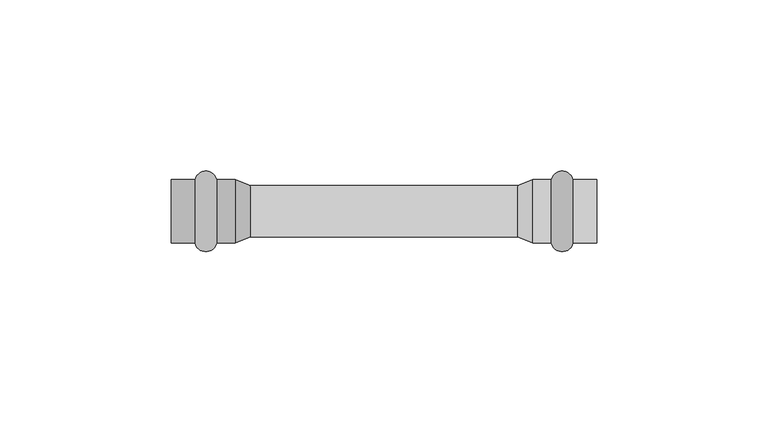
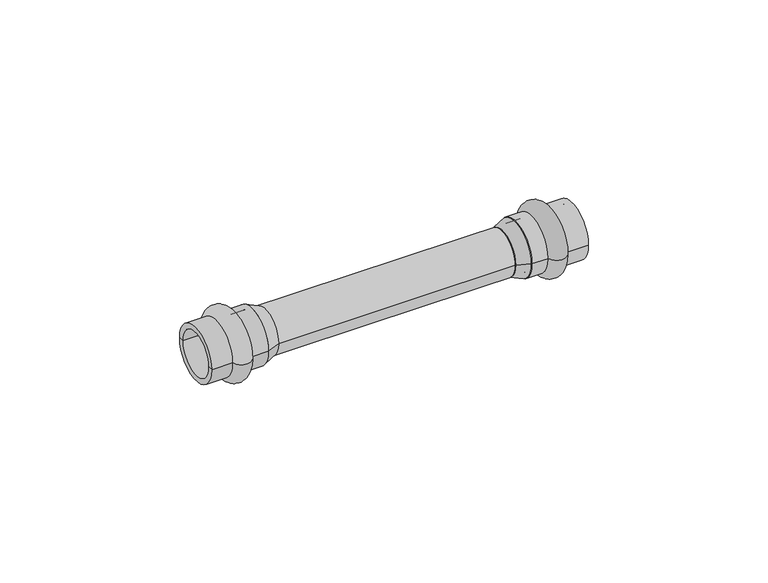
"""IFC4 building model written with IfcOpenShell, lengths in millimetres: pipe fitting geometry, VALTEC_VTi.903.I_Соединитель прямой нержавеющая сталь : VTi.903.I."""

from ifc_helpers import new_model, si_unit, point, frame, origin, origin_2d, place, context, project, spatial, polyline, circle_curve, ellipse_curve, trimmed, segment, composite_curve, outline, extrude, source, transform, mapped, element, save
from ifc_brep_helpers import plane_surface, cylinder_surface, revolved_surface, advanced_brep


def pipe_fitting_8fc397d4(model_context):
    return source(origin(), model_context, "Body", "SolidModel", [
        advanced_brep(
        [(117.1122777, 9.25, 0.0), (117.1122777, -9.25, 0.0), (110.7877223, -9.25, 0.0), (110.7877223, 9.25, 0.0), (124.0, 9.25, 0.0), (124.0, -9.25, 0.0), (124.0, 7.5, 0.0), (124.0, -7.5, 0.0), (105.4, 7.5, 0.0), (105.4, -7.5, 0.0), (105.4, 9.25, 0.0), (105.4, -9.25, 0.0)],
        [
            (0, 1, circle_curve(frame((117.1122777, 0.0, 0.0), z_axis=(-1.0, 0.0, 0.0), x_axis=(0.0, -1.0, 0.0)), 9.25)),
            (1, 2, circle_curve(frame((113.95, -8.5, 0.0), z_axis=(0.0, 0.0, -1.0), x_axis=(-1.0, 0.0, 0.0)), 3.25)),
            (2, 3, circle_curve(frame((110.7877223, 0.0, 0.0), z_axis=(1.0, 0.0, 0.0), x_axis=(0.0, -1.0, 0.0)), 9.25)),
            (3, 0, circle_curve(frame((113.95, 8.5, 0.0), z_axis=(0.0, 0.0, -1.0), x_axis=(-1.0, 0.0, 0.0)), 3.25)),
            (1, 0, circle_curve(frame((117.1122777, 0.0, 0.0), z_axis=(-1.0, 0.0, 0.0), x_axis=(0.0, -1.0, 0.0)), 9.25)),
            (3, 2, circle_curve(frame((110.7877223, 0.0, 0.0), z_axis=(1.0, 0.0, 0.0), x_axis=(0.0, -1.0, 0.0)), 9.25)),
            (4, 5, circle_curve(frame((124.0, 0.0, 0.0), z_axis=(-1.0, 0.0, 0.0), x_axis=(0.0, -1.0, 0.0)), 9.25)),
            (5, 1),
            (0, 4),
            (5, 4, circle_curve(frame((124.0, 0.0, 0.0), z_axis=(-1.0, 0.0, 0.0), x_axis=(0.0, -1.0, 0.0)), 9.25)),
            (6, 7, circle_curve(frame((124.0, 0.0, 0.0), z_axis=(-1.0, 0.0, 0.0), x_axis=(0.0, -1.0, 0.0)), 7.5)),
            (7, 5),
            (4, 6),
            (7, 6, circle_curve(frame((124.0, 0.0, 0.0), z_axis=(-1.0, 0.0, 0.0), x_axis=(0.0, -1.0, 0.0)), 7.5)),
            (8, 9, circle_curve(frame((105.4, 0.0, 0.0), z_axis=(-1.0, 0.0, 0.0), x_axis=(0.0, -1.0, 0.0)), 7.5)),
            (9, 7),
            (6, 8),
            (9, 8, circle_curve(frame((105.4, 0.0, 0.0), z_axis=(-1.0, 0.0, 0.0), x_axis=(0.0, -1.0, 0.0)), 7.5)),
            (10, 11, circle_curve(frame((105.4, 0.0, 0.0), z_axis=(-1.0, 0.0, 0.0), x_axis=(0.0, -1.0, 0.0)), 9.25)),
            (11, 9),
            (8, 10),
            (11, 10, circle_curve(frame((105.4, 0.0, 0.0), z_axis=(-1.0, 0.0, 0.0), x_axis=(0.0, -1.0, 0.0)), 9.25)),
            (2, 11),
            (10, 3),
        ],
        [
            revolved_surface(trimmed(ellipse_curve(frame((113.95, -8.5, 0.0), z_axis=(0.0, 0.0, 1.0), x_axis=(-1.0, 0.0, 0.0)), 3.25, 3.25), [point((110.7877223, -9.25, 0.0))], [point((117.1122777, -9.25, 0.0))], True, "CARTESIAN"), (127.5364426, 0.0, 0.0), (1.0, 0.0, 0.0)),
            cylinder_surface(frame((127.5364426, 0.0, 0.0), z_axis=(1.0, 0.0, 0.0), x_axis=(0.0, -1.0, 0.0)), 9.25),
            plane_surface(frame((124.0, 0.0, 0.0), z_axis=(1.0, 0.0, 0.0), x_axis=(0.0, -1.0, 0.0))),
            revolved_surface(polyline([(124.0, -7.5, 0.0), (105.4, -7.5, 0.0)]), (127.5364426, 0.0, 0.0), (1.0, 0.0, 0.0)),
            plane_surface(frame((105.4, 0.0, 0.0), z_axis=(-1.0, 0.0, 0.0), x_axis=(0.0, -1.0, 0.0))),
        ],
        [
            (0, [[1, 2, 3, 4]]),
            (0, [[5, -4, 6, -2]]),
            (1, [[7, 8, -1, 9]]),
            (1, [[10, -9, -5, -8]]),
            (2, [[11, 12, -7, 13]]),
            (2, [[14, -13, -10, -12]]),
            (3, [[15, 16, -11, 17]]),
            (3, [[18, -17, -14, -16]]),
            (4, [[19, 20, -15, 21]]),
            (4, [[22, -21, -18, -20]]),
            (1, [[-3, 23, -19, 24]]),
            (1, [[-6, -24, -22, -23]]),
        ],
    ),
        advanced_brep(
        [(6.8877223, -9.25, 0.0), (6.8877223, 9.25, 0.0), (13.2122777, 9.25, 0.0), (13.2122777, -9.25, 0.0), (0.0, -9.25, 0.0), (0.0, 9.25, 0.0), (0.0, -7.5, 0.0), (0.0, 7.5, 0.0), (18.6, -7.5, 0.0), (18.6, 7.5, 0.0), (18.6, -9.25, 0.0), (18.6, 9.25, 0.0)],
        [
            (0, 1, circle_curve(frame((6.8877223, 0.0, 0.0), z_axis=(1.0, 0.0, 0.0), x_axis=(0.0, 1.0, 0.0)), 9.25)),
            (1, 2, circle_curve(frame((10.05, 8.5, 0.0), z_axis=(0.0, 0.0, -1.0), x_axis=(1.0, 0.0, 0.0)), 3.25)),
            (2, 3, circle_curve(frame((13.2122777, 0.0, 0.0), z_axis=(-1.0, 0.0, 0.0), x_axis=(0.0, 1.0, 0.0)), 9.25)),
            (3, 0, circle_curve(frame((10.05, -8.5, 0.0), z_axis=(0.0, 0.0, -1.0), x_axis=(1.0, 0.0, 0.0)), 3.25)),
            (1, 0, circle_curve(frame((6.8877223, 0.0, 0.0), z_axis=(1.0, 0.0, 0.0), x_axis=(0.0, 1.0, 0.0)), 9.25)),
            (3, 2, circle_curve(frame((13.2122777, 0.0, 0.0), z_axis=(-1.0, 0.0, 0.0), x_axis=(0.0, 1.0, 0.0)), 9.25)),
            (4, 5, circle_curve(frame((0.0, 0.0, 0.0), z_axis=(1.0, 0.0, 0.0), x_axis=(0.0, 1.0, 0.0)), 9.25)),
            (5, 1),
            (0, 4),
            (5, 4, circle_curve(frame((0.0, 0.0, 0.0), z_axis=(1.0, 0.0, 0.0), x_axis=(0.0, 1.0, 0.0)), 9.25)),
            (6, 7, circle_curve(frame((0.0, 0.0, 0.0), z_axis=(1.0, 0.0, 0.0), x_axis=(0.0, 1.0, 0.0)), 7.5)),
            (7, 5),
            (4, 6),
            (7, 6, circle_curve(frame((0.0, 0.0, 0.0), z_axis=(1.0, 0.0, 0.0), x_axis=(0.0, 1.0, 0.0)), 7.5)),
            (8, 9, circle_curve(frame((18.6, 0.0, 0.0), z_axis=(1.0, 0.0, 0.0), x_axis=(0.0, 1.0, 0.0)), 7.5)),
            (9, 7),
            (6, 8),
            (9, 8, circle_curve(frame((18.6, 0.0, 0.0), z_axis=(1.0, 0.0, 0.0), x_axis=(0.0, 1.0, 0.0)), 7.5)),
            (10, 11, circle_curve(frame((18.6, 0.0, 0.0), z_axis=(1.0, 0.0, 0.0), x_axis=(0.0, 1.0, 0.0)), 9.25)),
            (11, 9),
            (8, 10),
            (11, 10, circle_curve(frame((18.6, 0.0, 0.0), z_axis=(1.0, 0.0, 0.0), x_axis=(0.0, 1.0, 0.0)), 9.25)),
            (2, 11),
            (10, 3),
        ],
        [
            revolved_surface(trimmed(ellipse_curve(frame((10.05, 8.5, 0.0), z_axis=(0.0, 0.0, 1.0), x_axis=(1.0, 0.0, 0.0)), 3.25, 3.25), [point((13.2122777, 9.25, 0.0))], [point((6.8877223, 9.25, 0.0))], True, "CARTESIAN"), (-3.5364426, 0.0, 0.0), (-1.0, 0.0, 0.0)),
            cylinder_surface(frame((-3.5364426, 0.0, 0.0), z_axis=(-1.0, 0.0, 0.0), x_axis=(0.0, 1.0, 0.0)), 9.25),
            plane_surface(frame((0.0, 0.0, 0.0), z_axis=(-1.0, 0.0, 0.0), x_axis=(0.0, 1.0, 0.0))),
            revolved_surface(polyline([(0.0, 7.5, 0.0), (18.6, 7.5, 0.0)]), (-3.5364426, 0.0, 0.0), (-1.0, 0.0, 0.0)),
            plane_surface(frame((18.6, 0.0, 0.0), z_axis=(1.0, 0.0, 0.0), x_axis=(0.0, 1.0, 0.0))),
        ],
        [
            (0, [[1, 2, 3, 4]]),
            (0, [[5, -4, 6, -2]]),
            (1, [[7, 8, -1, 9]]),
            (1, [[10, -9, -5, -8]]),
            (2, [[11, 12, -7, 13]]),
            (2, [[14, -13, -10, -12]]),
            (3, [[15, 16, -11, 17]]),
            (3, [[18, -17, -14, -16]]),
            (4, [[19, 20, -15, 21]]),
            (4, [[22, -21, -18, -20]]),
            (1, [[-3, 23, -19, 24]]),
            (1, [[-6, -24, -22, -23]]),
        ],
    ),
        advanced_brep(
        [(18.6, -9.25, 0.0), (18.6, 9.25, 0.0), (22.94, -7.5, 0.0), (22.94, 7.5, 0.0)],
        [
            (0, 1, circle_curve(frame((18.6, 0.0, 0.0), z_axis=(-1.0, 0.0, 0.0), x_axis=(0.0, -1.0, 0.0)), 9.25)),
            (1, 0, circle_curve(frame((18.6, 0.0, 0.0), z_axis=(-1.0, 0.0, 0.0), x_axis=(0.0, 1.0, 0.0)), 9.25)),
            (2, 3, circle_curve(frame((22.94, 0.0, 0.0), z_axis=(1.0, 0.0, 0.0), x_axis=(0.0, 1.0, 0.0)), 7.5)),
            (3, 2, circle_curve(frame((22.94, 0.0, 0.0), z_axis=(1.0, 0.0, 0.0), x_axis=(0.0, -1.0, 0.0)), 7.5)),
            (2, 0),
            (1, 3),
        ],
        [
            plane_surface(frame((18.6, 0.0, 0.0), z_axis=(-1.0, 0.0, 0.0), x_axis=(0.0, 0.0, 1.0))),
            plane_surface(frame((22.94, 0.0, 0.0), z_axis=(1.0, 0.0, 0.0), x_axis=(0.0, 0.0, 1.0))),
            revolved_surface(polyline([(22.94, -7.499999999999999, 0.0), (18.6, -9.25, 0.0)]), (41.54, 0.0, 0.0), (-1.0, 0.0, 0.0)),
            revolved_surface(polyline([(22.94, 7.499999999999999, 0.0), (18.6, 9.25, 0.0)]), (41.54, 0.0, 0.0), (-1.0, 0.0, 0.0)),
        ],
        [
            (0, [[1, 2]]),
            (1, [[3, 4]]),
            (2, [[-3, 5, -2, 6]]),
            (3, [[-4, -6, -1, -5]]),
        ],
    ),
        advanced_brep(
        [(105.4, -9.25, 0.0), (105.4, 9.25, 0.0), (101.06, -7.5, 0.0), (101.06, 7.5, 0.0)],
        [
            (0, 1, circle_curve(frame((105.4, 0.0, 0.0), z_axis=(1.0, 0.0, 0.0), x_axis=(0.0, -1.0, 0.0)), 9.25)),
            (1, 0, circle_curve(frame((105.4, 0.0, 0.0), z_axis=(1.0, 0.0, 0.0), x_axis=(0.0, 1.0, 0.0)), 9.25)),
            (2, 3, circle_curve(frame((101.06, 0.0, 0.0), z_axis=(-1.0, 0.0, 0.0), x_axis=(0.0, 1.0, 0.0)), 7.5)),
            (3, 2, circle_curve(frame((101.06, 0.0, 0.0), z_axis=(-1.0, 0.0, 0.0), x_axis=(0.0, -1.0, 0.0)), 7.5)),
            (3, 1),
            (0, 2),
        ],
        [
            plane_surface(frame((105.4, 0.0, 0.0), z_axis=(1.0, 0.0, 0.0), x_axis=(0.0, 0.0, -1.0))),
            plane_surface(frame((101.06, 0.0, 0.0), z_axis=(-1.0, 0.0, 0.0), x_axis=(0.0, 0.0, -1.0))),
            revolved_surface(polyline([(101.06, 7.499999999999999, 0.0), (105.4, 9.25, 0.0)]), (82.46, 0.0, 0.0), (1.0, 0.0, 0.0)),
            revolved_surface(polyline([(101.06, -7.499999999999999, 0.0), (105.4, -9.25, 0.0)]), (82.46, 0.0, 0.0), (1.0, 0.0, 0.0)),
        ],
        [
            (0, [[1, 2]]),
            (1, [[3, 4]]),
            (2, [[-4, 5, -1, 6]]),
            (3, [[-3, -6, -2, -5]]),
        ],
    ),
        extrude(outline(composite_curve([segment(trimmed(circle_curve(origin_2d(), 7.5), [point((-7.5, 0.0))], [point((7.5, 0.0))], False, "CARTESIAN"), True, "CONTINUOUS"), segment(trimmed(circle_curve(origin_2d(), 7.5), [point((7.5, 0.0))], [point((-7.5, 0.0))], False, "CARTESIAN"), True, "CONTINUOUS")], self_intersect=False)), frame((18.6, 0.0, 0.0), z_axis=(1.0, 0.0, 0.0), x_axis=(0.0, 1.0, 0.0)), (0.0, 0.0, 1.0), 86.8),
    ])


if __name__ == "__main__":
    model = new_model("IFC4")
    model_context = context("Model", 3, world=origin())
    ifc_project = project(units=[si_unit("LENGTHUNIT", "METRE", prefix="MILLI")], contexts=[model_context])
    site = spatial("IfcSite", under=ifc_project)
    building = spatial("IfcBuilding", under=site)
    placement = place(None, origin())
    pipe_fitting_shape = pipe_fitting_8fc397d4(model_context)
    element("IfcPipeFitting", 1, ObjectType="VALTEC_VTi.903.I_Соединитель прямой нержавеющая сталь : VTi.903.I", at=placement, inside=building, context=model_context, shape_type="MappedRepresentation", body=[
        mapped(pipe_fitting_shape, transform((0.0, 0.0, 0.0), x_axis=(1.0, 0.0, 0.0), y_axis=(0.0, 1.0, 0.0), z_axis=(0.0, 0.0, 1.0))),
    ])
    save(model, "model.ifc")
